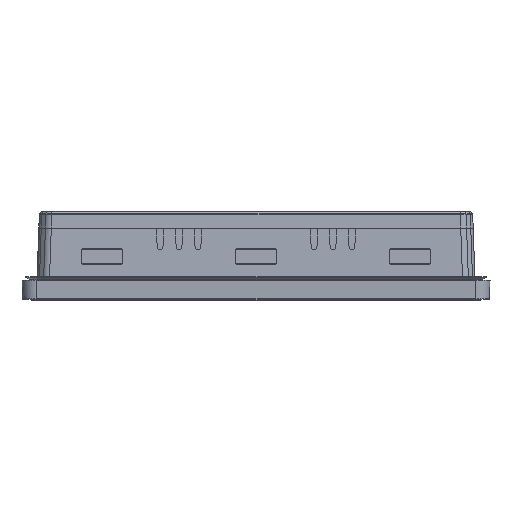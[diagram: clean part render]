
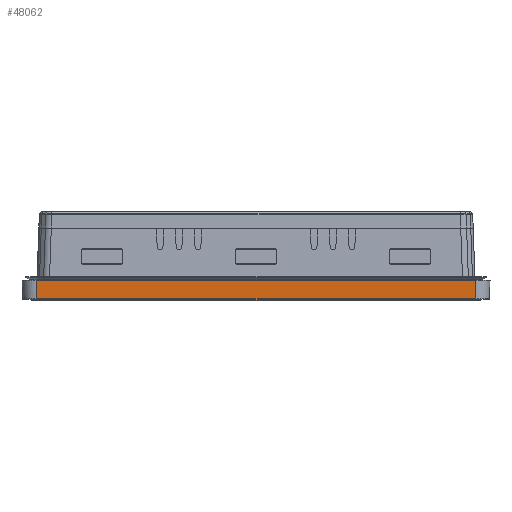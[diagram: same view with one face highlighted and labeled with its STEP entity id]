
A CAD part, left-side view. The second image highlights one B-rep face of the part: STEP entity #48062.
In plain terms, the highlighted planar face has unit normal (-0.999, 0, -0.035).
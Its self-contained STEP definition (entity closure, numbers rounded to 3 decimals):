
#9871 = VECTOR ( 'NONE', #120894, 1000. ) ;
#18196 = CARTESIAN_POINT ( 'NONE',  ( -140.768, 92.271, -6.654 ) ) ;
#32288 = VERTEX_POINT ( 'NONE', #110181 ) ;
#33046 = VECTOR ( 'NONE', #35409, 1000. ) ;
#34387 = ORIENTED_EDGE ( 'NONE', *, *, #135287, .T. ) ;
#35409 = DIRECTION ( 'NONE',  ( 0., 1., 0. ) ) ;
#37429 = EDGE_CURVE ( 'NONE', #70712, #32288, #104691, .T. ) ;
#40621 = LINE ( 'NONE', #65447, #143646 ) ;
#42034 = ORIENTED_EDGE ( 'NONE', *, *, #37429, .T. ) ;
#44522 = VERTEX_POINT ( 'NONE', #116958 ) ;
#44571 = VERTEX_POINT ( 'NONE', #128981 ) ;
#48062 = ADVANCED_FACE ( 'NONE', ( #132191 ), #142711, .T. ) ;
#57119 = EDGE_LOOP ( 'NONE', ( #34387, #147377, #143484, #42034 ) ) ;
#65447 = CARTESIAN_POINT ( 'NONE',  ( -141.007, -98.5, 0.193 ) ) ;
#67087 = LINE ( 'NONE', #18196, #68240 ) ;
#68240 = VECTOR ( 'NONE', #76929, 1000. ) ;
#70712 = VERTEX_POINT ( 'NONE', #105974 ) ;
#74195 = DIRECTION ( 'NONE',  ( -0.999, 0., -0.035 ) ) ;
#74936 = CARTESIAN_POINT ( 'NONE',  ( -141., -98.5, 0. ) ) ;
#76929 = DIRECTION ( 'NONE',  ( 0.035, -0.035, -0.999 ) ) ;
#83304 = DIRECTION ( 'NONE',  ( -0.035, 0., 0.999 ) ) ;
#88032 = DIRECTION ( 'NONE',  ( 0., -1., 0. ) ) ;
#90886 = AXIS2_PLACEMENT_3D ( 'NONE', #74936, #74195, #83304 ) ;
#104691 = LINE ( 'NONE', #140758, #33046 ) ;
#105974 = CARTESIAN_POINT ( 'NONE',  ( -141.279, -92.783, 8. ) ) ;
#110181 = CARTESIAN_POINT ( 'NONE',  ( -141.279, 92.783, 8. ) ) ;
#116958 = CARTESIAN_POINT ( 'NONE',  ( -141.007, -92.51, 0.193 ) ) ;
#119402 = CARTESIAN_POINT ( 'NONE',  ( -141.287, -92.79, 8.209 ) ) ;
#120894 = DIRECTION ( 'NONE',  ( -0.035, -0.035, 0.999 ) ) ;
#121628 = LINE ( 'NONE', #119402, #9871 ) ;
#124297 = EDGE_CURVE ( 'NONE', #44571, #44522, #40621, .T. ) ;
#128981 = CARTESIAN_POINT ( 'NONE',  ( -141.007, 92.51, 0.193 ) ) ;
#132191 = FACE_OUTER_BOUND ( 'NONE', #57119, .T. ) ;
#135287 = EDGE_CURVE ( 'NONE', #32288, #44571, #67087, .T. ) ;
#140758 = CARTESIAN_POINT ( 'NONE',  ( -141.279, 0., 8. ) ) ;
#142711 = PLANE ( 'NONE',  #90886 ) ;
#143484 = ORIENTED_EDGE ( 'NONE', *, *, #146745, .T. ) ;
#143646 = VECTOR ( 'NONE', #88032, 1000. ) ;
#146745 = EDGE_CURVE ( 'NONE', #44522, #70712, #121628, .T. ) ;
#147377 = ORIENTED_EDGE ( 'NONE', *, *, #124297, .T. ) ;
